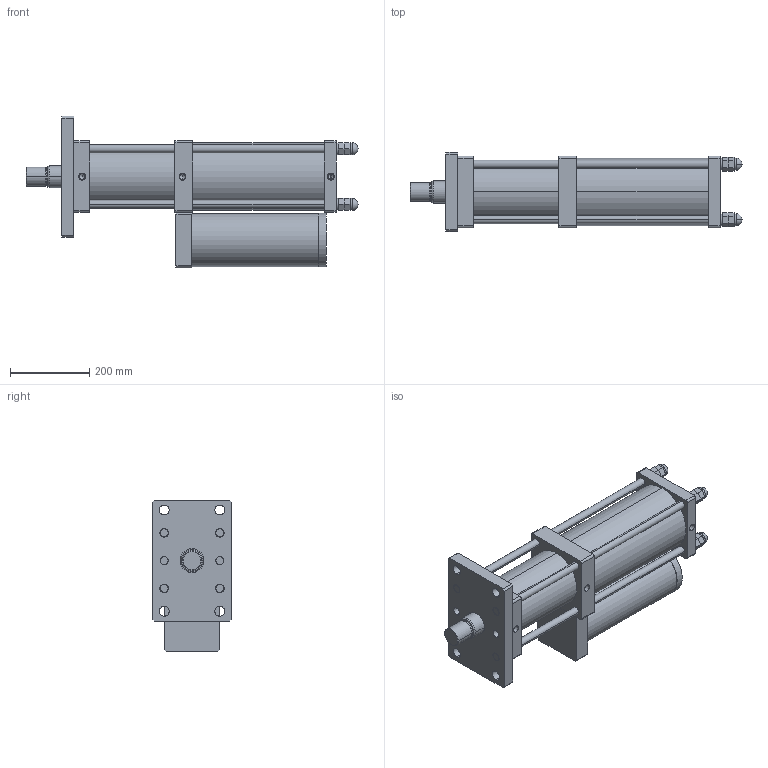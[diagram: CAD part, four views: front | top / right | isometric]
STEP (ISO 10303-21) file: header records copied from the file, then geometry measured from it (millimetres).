
FILE_DESCRIPTION (( 'STEP AP203' ), '1' );
FILE_NAME ('CPT-125-150-15-20T.STEP', '2016-03-12T02:01:12', ( 'WIN' ), ( '' ), 'SwSTEP 2.0', 'SolidWorks 2014', '' );
FILE_SCHEMA (( 'CONFIG_CONTROL_DESIGN' ));
Length unit declared in the file: millimetre
Products named in the file (1): CPT-125-150-15-20T
Bounding box: 836 x 200 x 382.5 mm (x, y, z)
Volume: 18997828.7 mm3; surface area: 1323766.2 mm2
Topology: 17 solids, 17 shells, 318 faces, 726 edges, 454 vertices
Faces by surface type: plane 154, cylinder 122, cone 30, sphere 8, torus 4
Entity records: 8889 total; most frequent: DIRECTION 1638, CARTESIAN_POINT 1467, ORIENTED_EDGE 1404, EDGE_CURVE 702, AXIS2_PLACEMENT_3D 617, VERTEX_POINT 446, LINE 404, VECTOR 404
